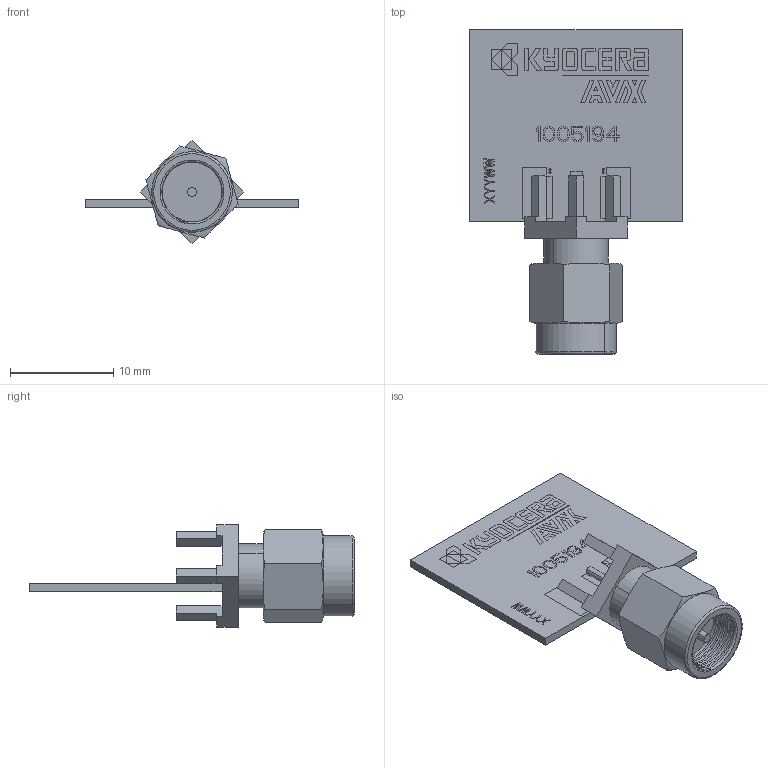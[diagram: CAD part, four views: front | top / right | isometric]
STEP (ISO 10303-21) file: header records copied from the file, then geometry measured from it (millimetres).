
FILE_DESCRIPTION((''),'2;1');
FILE_NAME('1005194_ASM','2024-05-02T15:07:38',('mrodriguez'),(''),'CREO PARAMETRIC BY PTC INC, 2024014','CREO PARAMETRIC BY PTC INC, 2024014','');
FILE_SCHEMA(('AUTOMOTIVE_DESIGN { 1 0 10303 214 1 1 1 1 }'));
Length unit declared in the file: millimetre
Products named in the file (3): 1005194; 1005289; 1005194_ASM
Assembly tree (2 placements, depth 2):
  1005194_ASM
    1005194
    1005289
Bounding box: 20.6 x 31.39 x 9.9 mm (x, y, z)
Volume: 868.4 mm3; surface area: 1559 mm2
Topology: 2 solids, 42 shells, 139 faces, 767 edges, 679 vertices
Faces by surface type: plane 91, cylinder 32, torus 8, cone 4, bspline 4
Entity records: 11644 total; most frequent: CARTESIAN_POINT 2972, DIRECTION 1141, ORIENTED_EDGE 1020, PRESENTATION_STYLE_ASSIGNMENT 815, STYLED_ITEM 775, CURVE_STYLE 767, EDGE_CURVE 767, VERTEX_POINT 679
